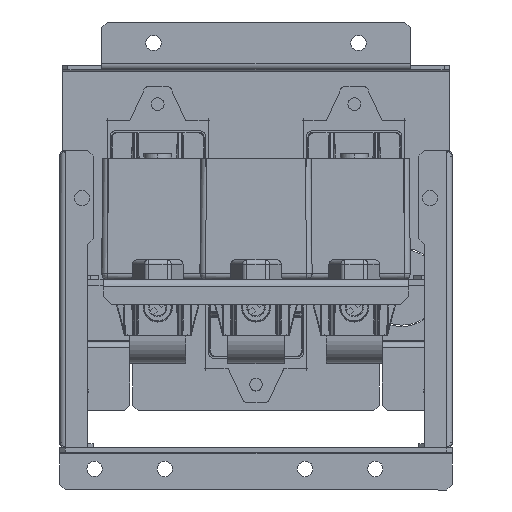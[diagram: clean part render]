
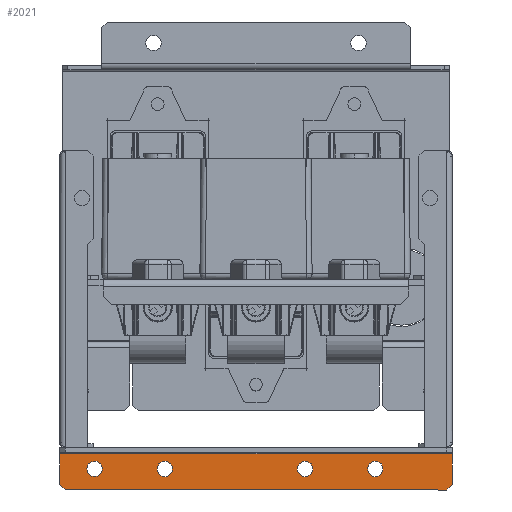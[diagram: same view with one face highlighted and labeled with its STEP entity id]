
A CAD part, left-side view. The second image highlights one B-rep face of the part: STEP entity #2021.
In plain terms, the highlighted planar face has unit normal (-1, 0, 0) as drawn and (1, 0, 0) by its records, which use the part's own axes.
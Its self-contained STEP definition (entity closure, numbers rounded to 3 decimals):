
#726=CARTESIAN_POINT(' ',(-97.5,-17.5,8.75));
#727=VERTEX_POINT(' ',#726);
#741=CARTESIAN_POINT(' ',(-97.5,-17.5,6.));
#746=DIRECTION(' ',(1.,0.,0.));
#751=DIRECTION(' ',(0.,0.,1.));
#756=AXIS2_PLACEMENT_3D(' ',#741,#746,#751);
#761=CIRCLE('',#756,2.75);
#766=CARTESIAN_POINT(' ',(-97.5,-17.5,3.25));
#767=VERTEX_POINT(' ',#766);
#771=EDGE_CURVE(' ',#727,#767,#761,.T.);
#1436=CARTESIAN_POINT(' ',(-97.5,-17.5,6.));
#1441=DIRECTION(' ',(1.,0.,0.));
#1446=DIRECTION(' ',(0.,0.,-1.));
#1451=AXIS2_PLACEMENT_3D(' ',#1436,#1441,#1446);
#1456=CIRCLE('',#1451,2.75);
#1461=EDGE_CURVE(' ',#767,#727,#1456,.T.);
#1486=DIRECTION(' ',(1.,0.,0.));
#1491=CARTESIAN_POINT(' ',(-97.5,-70.,13.5));
#1496=DIRECTION(' ',(0.,0.,-1.));
#1501=AXIS2_PLACEMENT_3D(' ',#1491,#1486,#1496);
#1506=PLANE('NONE',#1501);
#1511=CARTESIAN_POINT(' ',(-97.5,-68.,13.5));
#1516=DIRECTION(' ',(0.,1.,0.));
#1521=VECTOR(' ',#1516,1.);
#1526=LINE('',#1511,#1521);
#1531=CARTESIAN_POINT(' ',(-97.5,-68.,13.5));
#1532=VERTEX_POINT(' ',#1531);
#1536=CARTESIAN_POINT(' ',(-97.5,68.,13.5));
#1537=VERTEX_POINT(' ',#1536);
#1541=EDGE_CURVE(' ',#1532,#1537,#1526,.T.);
#1546=ORIENTED_EDGE(' ',*,*,#1541,.F.);
#1551=CARTESIAN_POINT(' ',(-97.5,-68.,13.5));
#1556=DIRECTION(' ',(0.,-0.707,-0.707));
#1561=VECTOR(' ',#1556,1.);
#1566=LINE('',#1551,#1561);
#1571=CARTESIAN_POINT(' ',(-97.5,-70.,11.5));
#1572=VERTEX_POINT(' ',#1571);
#1576=EDGE_CURVE(' ',#1532,#1572,#1566,.T.);
#1581=ORIENTED_EDGE(' ',*,*,#1576,.T.);
#1586=CARTESIAN_POINT(' ',(-97.5,-70.,0.6));
#1591=DIRECTION(' ',(0.,0.,1.));
#1596=VECTOR(' ',#1591,1.);
#1601=LINE('',#1586,#1596);
#1606=CARTESIAN_POINT(' ',(-97.5,-70.,0.6));
#1607=VERTEX_POINT(' ',#1606);
#1611=EDGE_CURVE(' ',#1607,#1572,#1601,.T.);
#1616=ORIENTED_EDGE(' ',*,*,#1611,.F.);
#1621=CARTESIAN_POINT(' ',(-97.5,70.,0.6));
#1626=DIRECTION(' ',(0.,-1.,0.));
#1631=VECTOR(' ',#1626,1.);
#1636=LINE('',#1621,#1631);
#1641=CARTESIAN_POINT(' ',(-97.5,70.,0.6));
#1642=VERTEX_POINT(' ',#1641);
#1646=EDGE_CURVE(' ',#1642,#1607,#1636,.T.);
#1651=ORIENTED_EDGE(' ',*,*,#1646,.F.);
#1656=CARTESIAN_POINT(' ',(-97.5,70.,11.5));
#1661=DIRECTION(' ',(0.,0.,-1.));
#1666=VECTOR(' ',#1661,1.);
#1671=LINE('',#1656,#1666);
#1676=CARTESIAN_POINT(' ',(-97.5,70.,11.5));
#1677=VERTEX_POINT(' ',#1676);
#1681=EDGE_CURVE(' ',#1677,#1642,#1671,.T.);
#1686=ORIENTED_EDGE(' ',*,*,#1681,.F.);
#1691=CARTESIAN_POINT(' ',(-97.5,70.,11.5));
#1696=DIRECTION(' ',(0.,-0.707,0.707));
#1701=VECTOR(' ',#1696,1.);
#1706=LINE('',#1691,#1701);
#1711=EDGE_CURVE(' ',#1677,#1537,#1706,.T.);
#1716=ORIENTED_EDGE(' ',*,*,#1711,.T.);
#1721=EDGE_LOOP(' ',(#1546,#1581,#1616,#1651,#1686,#1716));
#1726=FACE_OUTER_BOUND(' ',#1721,.T.);
#1731=ORIENTED_EDGE(' ',*,*,#1461,.F.);
#1736=ORIENTED_EDGE(' ',*,*,#771,.F.);
#1741=EDGE_LOOP(' ',(#1731,#1736));
#1746=FACE_BOUND(' ',#1741,.T.);
#1751=CARTESIAN_POINT(' ',(-97.5,57.5,6.));
#1756=DIRECTION(' ',(-1.,0.,0.));
#1761=DIRECTION(' ',(0.,0.,1.));
#1766=AXIS2_PLACEMENT_3D(' ',#1751,#1756,#1761);
#1771=CIRCLE('',#1766,2.75);
#1776=CARTESIAN_POINT(' ',(-97.5,57.5,8.75));
#1777=VERTEX_POINT(' ',#1776);
#1781=CARTESIAN_POINT(' ',(-97.5,57.5,3.25));
#1782=VERTEX_POINT(' ',#1781);
#1786=EDGE_CURVE(' ',#1777,#1782,#1771,.T.);
#1791=ORIENTED_EDGE(' ',*,*,#1786,.T.);
#1796=CARTESIAN_POINT(' ',(-97.5,57.5,6.));
#1801=DIRECTION(' ',(-1.,0.,0.));
#1806=DIRECTION(' ',(0.,0.,-1.));
#1811=AXIS2_PLACEMENT_3D(' ',#1796,#1801,#1806);
#1816=CIRCLE('',#1811,2.75);
#1821=EDGE_CURVE(' ',#1782,#1777,#1816,.T.);
#1826=ORIENTED_EDGE(' ',*,*,#1821,.T.);
#1831=EDGE_LOOP(' ',(#1791,#1826));
#1836=FACE_BOUND(' ',#1831,.T.);
#1841=CARTESIAN_POINT(' ',(-97.5,-42.5,6.));
#1846=DIRECTION(' ',(-1.,0.,0.));
#1851=DIRECTION(' ',(0.,0.,1.));
#1856=AXIS2_PLACEMENT_3D(' ',#1841,#1846,#1851);
#1861=CIRCLE('',#1856,2.75);
#1866=CARTESIAN_POINT(' ',(-97.5,-42.5,8.75));
#1867=VERTEX_POINT(' ',#1866);
#1871=CARTESIAN_POINT(' ',(-97.5,-42.5,3.25));
#1872=VERTEX_POINT(' ',#1871);
#1876=EDGE_CURVE(' ',#1867,#1872,#1861,.T.);
#1881=ORIENTED_EDGE(' ',*,*,#1876,.T.);
#1886=CARTESIAN_POINT(' ',(-97.5,-42.5,6.));
#1891=DIRECTION(' ',(-1.,0.,0.));
#1896=DIRECTION(' ',(0.,0.,-1.));
#1901=AXIS2_PLACEMENT_3D(' ',#1886,#1891,#1896);
#1906=CIRCLE('',#1901,2.75);
#1911=EDGE_CURVE(' ',#1872,#1867,#1906,.T.);
#1916=ORIENTED_EDGE(' ',*,*,#1911,.T.);
#1921=EDGE_LOOP(' ',(#1881,#1916));
#1926=FACE_BOUND(' ',#1921,.T.);
#1931=CARTESIAN_POINT(' ',(-97.5,32.5,6.));
#1936=DIRECTION(' ',(1.,0.,0.));
#1941=DIRECTION(' ',(0.,0.,-1.));
#1946=AXIS2_PLACEMENT_3D(' ',#1931,#1936,#1941);
#1951=CIRCLE('',#1946,2.75);
#1956=CARTESIAN_POINT(' ',(-97.5,32.5,3.25));
#1957=VERTEX_POINT(' ',#1956);
#1961=CARTESIAN_POINT(' ',(-97.5,32.5,8.75));
#1962=VERTEX_POINT(' ',#1961);
#1966=EDGE_CURVE(' ',#1957,#1962,#1951,.T.);
#1971=ORIENTED_EDGE(' ',*,*,#1966,.F.);
#1976=CARTESIAN_POINT(' ',(-97.5,32.5,6.));
#1981=DIRECTION(' ',(1.,0.,0.));
#1986=DIRECTION(' ',(0.,0.,1.));
#1991=AXIS2_PLACEMENT_3D(' ',#1976,#1981,#1986);
#1996=CIRCLE('',#1991,2.75);
#2001=EDGE_CURVE(' ',#1962,#1957,#1996,.T.);
#2006=ORIENTED_EDGE(' ',*,*,#2001,.F.);
#2011=EDGE_LOOP(' ',(#1971,#2006));
#2016=FACE_BOUND(' ',#2011,.T.);
#2021=ADVANCED_FACE('NONE',(#1726,#1746,#1836,#1926,#2016),#1506,.T.);
